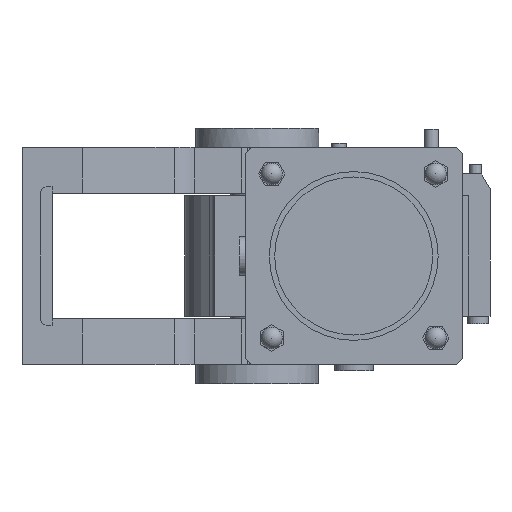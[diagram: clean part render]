
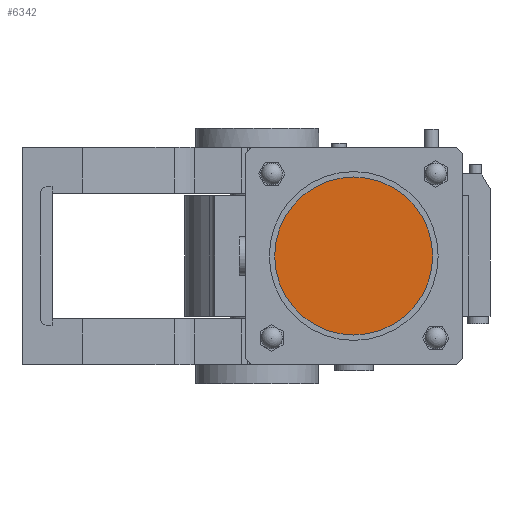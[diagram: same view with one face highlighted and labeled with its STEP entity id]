
A CAD part, front view. The second image highlights one B-rep face of the part: STEP entity #6342.
In plain terms, the highlighted planar face has unit normal (0, -1, 0).
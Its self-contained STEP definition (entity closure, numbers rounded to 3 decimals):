
#1476=PLANE('',#7023);
#1982=FACE_OUTER_BOUND('',#2468,.T.);
#2468=EDGE_LOOP('',(#5142));
#2793=CIRCLE('',#6934,65.5);
#3113=VERTEX_POINT('',#9775);
#3773=EDGE_CURVE('',#3113,#3113,#2793,.T.);
#5142=ORIENTED_EDGE('',*,*,#3773,.T.);
#6342=ADVANCED_FACE('',(#1982),#1476,.T.);
#6934=AXIS2_PLACEMENT_3D('',#9776,#7926,#7927);
#7023=AXIS2_PLACEMENT_3D('',#10088,#8224,#8225);
#7926=DIRECTION('center_axis',(0.,-1.,0.));
#7927=DIRECTION('ref_axis',(0.,0.,-1.));
#8224=DIRECTION('center_axis',(0.,-1.,0.));
#8225=DIRECTION('ref_axis',(0.,0.,-1.));
#9775=CARTESIAN_POINT('',(80.,-622.,65.5));
#9776=CARTESIAN_POINT('Origin',(80.,-622.,0.));
#10088=CARTESIAN_POINT('Origin',(80.,-622.,0.));
